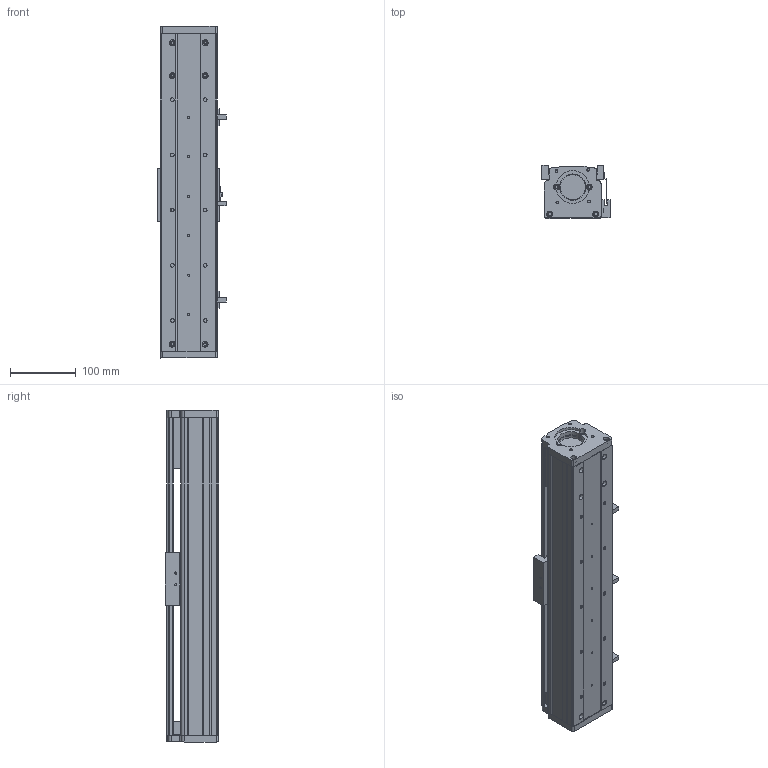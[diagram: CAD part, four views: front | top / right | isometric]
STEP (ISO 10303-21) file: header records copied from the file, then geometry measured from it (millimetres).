
FILE_DESCRIPTION (( 'STEP AP214' ), '1' );
FILE_NAME ('CF86-C-250-FW.STEP', '2020-01-15T07:52:23', ( '微软用户' ), ( '微软中国' ), 'SwSTEP 2.0', 'SolidWorks 2016', '' );
FILE_SCHEMA (( 'AUTOMOTIVE_DESIGN' ));
Length unit declared in the file: millimetre
Products named in the file (12): 嫖萇羲壽; 75-86-95癹弇羲壽覜茼え; 86-60侜督萇儂釱(蜊輛); CF86賑輸; 02 86盓傅釱; 01 86嘐隅釱; EGW15CA賑輸; EGR15絳寢-250; 86臏倰第-250; 86裔啣-250; 86耜啣; CF86-C-250-FW
Assembly tree (13 placements, depth 2):
  CF86-C-250-FW
    86耜啣
    86裔啣-250
    86臏倰第-250
    EGR15絳寢-250
    EGW15CA賑輸
    01 86嘐隅釱
    02 86盓傅釱
    CF86賑輸
    86-60侜督萇儂釱(蜊輛)
    75-86-95癹弇羲壽覜茼え
    嫖萇羲壽  x3
Bounding box: 103.85 x 81 x 505 mm (x, y, z)
Volume: 1561516.1 mm3; surface area: 490948.5 mm2
Topology: 13 solids, 13 shells, 655 faces, 1756 edges, 1168 vertices
Faces by surface type: plane 352, cylinder 303
Entity records: 20832 total; most frequent: CARTESIAN_POINT 3529, DIRECTION 3408, ORIENTED_EDGE 3224, EDGE_CURVE 1612, AXIS2_PLACEMENT_3D 1215, VERTEX_POINT 1072, VECTOR 978, LINE 978
